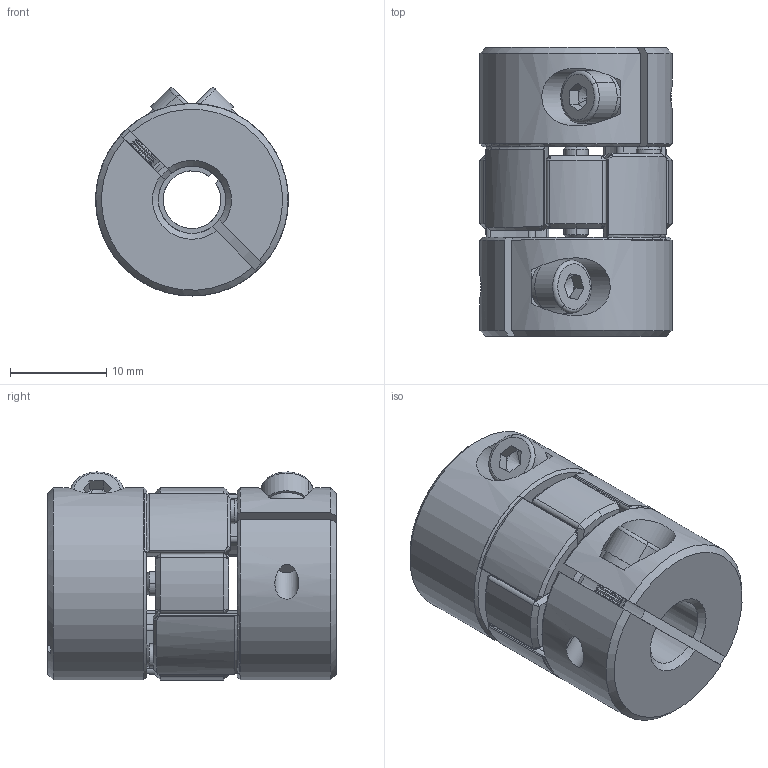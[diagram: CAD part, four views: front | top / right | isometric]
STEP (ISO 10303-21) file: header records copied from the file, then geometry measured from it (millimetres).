
FILE_DESCRIPTION (( 'STEP AP203' ), '1' );
FILE_NAME ('LF-B-D20L30-6-7.STEP', '2021-10-27T02:49:27', ( '' ), ( '' ), 'SwSTEP 2.0', 'SolidWorks 2018', '' );
FILE_SCHEMA (( 'CONFIG_CONTROL_DESIGN' ));
Length unit declared in the file: millimetre
Products named in the file (1): LF-B-D20L30-6-7
Bounding box: 20 x 30 x 21.62 mm (x, y, z)
Volume: 7641.1 mm3; surface area: 4883.3 mm2
Topology: 1 solids, 1 shells, 518 faces, 1253 edges, 691 vertices
Faces by surface type: cone 252, cylinder 192, plane 62, torus 12
Entity records: 15024 total; most frequent: CARTESIAN_POINT 2904, DIRECTION 2742, ORIENTED_EDGE 2426, EDGE_CURVE 1213, AXIS2_PLACEMENT_3D 1107, VERTEX_POINT 691, CIRCLE 588, EDGE_LOOP 546
